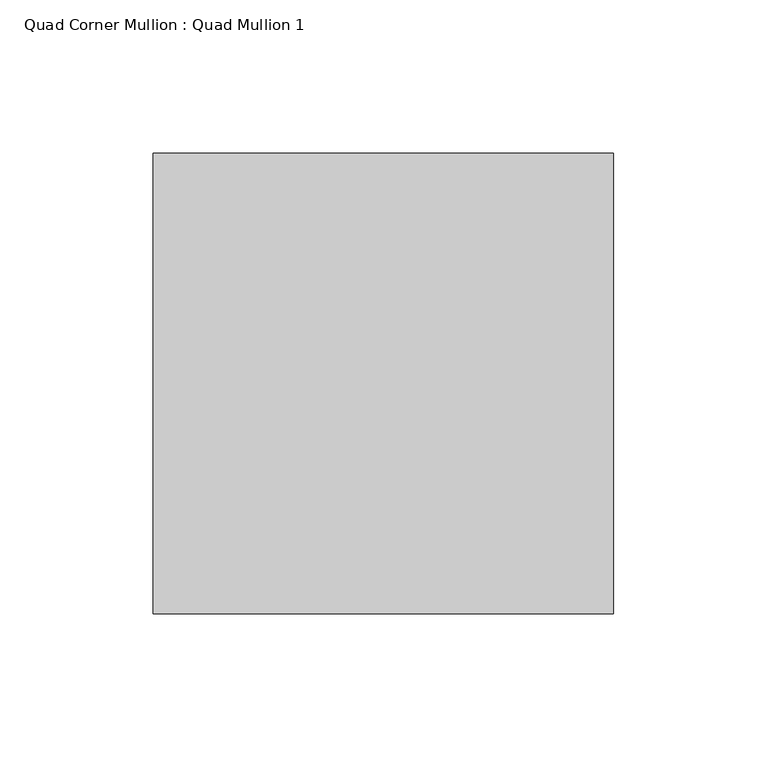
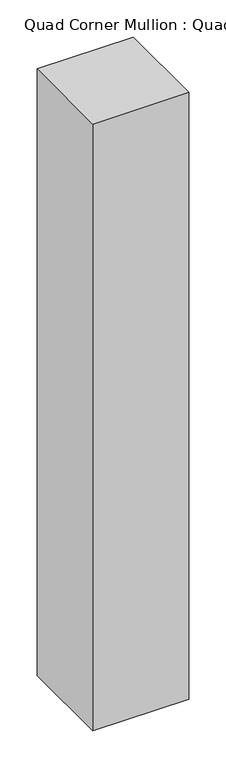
"""IFC4 building model written with IfcOpenShell, lengths in millimetres: member geometry, Quad Corner Mullion : Quad Mullion 1."""

import ifcopenshell
import ifcopenshell.guid

model = None  # the IFC model being written
_history = None  # IfcOwnerHistory: only IFC2X3 demands one
_inside = {}  # id of a spatial element -> (the spatial element, [elements in it])
_under = {}  # id of a project, library or spatial element -> (it, [spatial elements below it])
_declared = {}  # id of a project -> (the project, [libraries it declares])
_typed = {}  # id of a type object -> (the type object, [elements of that type])
_made_of = {}  # id of a material, layer set ... -> (it, [elements and type objects made of it])


def new_model(schema):
    """Start an empty IFC model of exactly this schema.

    Asked for "IFC4X3", IfcOpenShell would pick the latest addendum, in which some entities
    have other attributes; the version numbers below select the first issue.
    IFC2X3 requires an IfcOwnerHistory on every rooted entity: one is made here for all.
    """
    global model, _history
    if schema == "IFC4X3":
        model = ifcopenshell.file(schema_version=(4, 3, 0, 0))
    else:
        model = ifcopenshell.file(schema=schema)
    _inside.clear()
    _under.clear()
    _declared.clear()
    _typed.clear()
    _made_of.clear()
    _history = None
    if model.schema == "IFC2X3":
        org = make("IfcOrganization", Name="unknown")
        user = make(
            "IfcPersonAndOrganization",
            ThePerson=make("IfcPerson", FamilyName="unknown"),
            TheOrganization=org,
        )
        app = make(
            "IfcApplication",
            ApplicationDeveloper=org,
            Version="unknown",
            ApplicationFullName="unknown",
            ApplicationIdentifier="unknown",
        )
        _history = make(
            "IfcOwnerHistory",
            OwningUser=user,
            OwningApplication=app,
            ChangeAction="ADDED",
            CreationDate=0,
        )
    return model


def make(cls, **values):
    """One entity of the class cls with the attributes given. An attribute that is None is left unset."""
    return model.create_entity(
        cls, **{name: value for name, value in values.items() if value is not None}
    )


def rooted(cls, **values):
    """An entity with a GlobalId (a new one), such as an element, a storey or a relation."""
    return make(cls, GlobalId=ifcopenshell.guid.new(), OwnerHistory=_history, **values)


def si_unit(unit_type, name, prefix=None):
    """IfcSIUnit, for example si_unit("LENGTHUNIT", "METRE", prefix="MILLI")."""
    return make("IfcSIUnit", UnitType=unit_type, Prefix=prefix, Name=name)


def assignment(units):
    """IfcUnitAssignment: the units of a project."""
    return None if units is None else make("IfcUnitAssignment", Units=units)


def point(xyz):
    """IfcCartesianPoint."""
    return None if xyz is None else make("IfcCartesianPoint", Coordinates=xyz)


def direction(xyz):
    """IfcDirection."""
    return None if xyz is None else make("IfcDirection", DirectionRatios=xyz)


def frame(location, z_axis=None, x_axis=None):
    """IfcAxis2Placement3D, a coordinate frame: its origin and axes. An axis left out is left unset."""
    return make(
        "IfcAxis2Placement3D",
        Location=point(location),
        Axis=direction(z_axis),
        RefDirection=direction(x_axis),
    )


def origin():
    """The frame at (0, 0, 0) with its axes left unset."""
    return frame((0.0, 0.0, 0.0))


def place(relative_to, where):
    """IfcLocalPlacement: puts the frame where relative to a parent placement (None: the world)."""
    return make(
        "IfcLocalPlacement", PlacementRelTo=relative_to, RelativePlacement=where
    )


def context(
    kind, dimensions, precision=None, world=None, true_north=None, identifier=None
):
    """IfcGeometricRepresentationContext, for example the 3D "Model" context."""
    return make(
        "IfcGeometricRepresentationContext",
        ContextIdentifier=identifier,
        ContextType=kind,
        CoordinateSpaceDimension=dimensions,
        Precision=precision,
        WorldCoordinateSystem=world,
        TrueNorth=true_north,
    )


def project(units=None, contexts=None):
    """IfcProject with its units and contexts."""
    return rooted(
        "IfcProject",
        Name="project",
        RepresentationContexts=contexts,
        UnitsInContext=assignment(units),
    )


def spatial(cls, under=None, at=None, **own):
    """A site, building, storey or space (cls), placed at a placement, below another one or the project."""
    s = rooted(cls, ObjectPlacement=at, **own)
    if under is not None:
        _under.setdefault(under.id(), (under, []))[1].append(s)
    return s


def polyline(points):
    """IfcPolyline through the points."""
    return make("IfcPolyline", Points=[point(p) for p in points])


def outline(outer, holes=None, kind="AREA"):
    """IfcArbitraryClosedProfileDef: a profile drawn as a closed curve; with holes, ...WithVoids."""
    if holes is None:
        return make("IfcArbitraryClosedProfileDef", ProfileType=kind, OuterCurve=outer)
    return make(
        "IfcArbitraryProfileDefWithVoids",
        ProfileType=kind,
        OuterCurve=outer,
        InnerCurves=holes,
    )


def extrude(swept, where, along, depth):
    """IfcExtrudedAreaSolid: the profile swept, set in the frame where, extruded along a direction by depth."""
    return make(
        "IfcExtrudedAreaSolid",
        SweptArea=swept,
        Position=where,
        ExtrudedDirection=direction(along),
        Depth=depth,
    )


def shape(context_of_items, identifier, shape_type, items):
    """IfcShapeRepresentation: the items that make up one representation, for example the "Body"."""
    return make(
        "IfcShapeRepresentation",
        ContextOfItems=context_of_items,
        RepresentationIdentifier=identifier,
        RepresentationType=shape_type,
        Items=items,
    )


def source(mapping_origin, context_of_items, identifier, shape_type, items):
    """IfcRepresentationMap: a shape defined once, which mapped items show again and again."""
    return make(
        "IfcRepresentationMap",
        MappingOrigin=mapping_origin,
        MappedRepresentation=shape(context_of_items, identifier, shape_type, items),
    )


def transform(
    local_origin,
    x_axis=None,
    y_axis=None,
    z_axis=None,
    scale=None,
    scale2=None,
    scale3=None,
    uniform=True,
):
    """IfcCartesianTransformationOperator3D, or its non-uniform kind. x_axis, y_axis, z_axis: its Axis1, 2, 3."""
    if uniform:
        return make(
            "IfcCartesianTransformationOperator3D",
            Axis1=direction(x_axis),
            Axis2=direction(y_axis),
            LocalOrigin=point(local_origin),
            Scale=scale,
            Axis3=direction(z_axis),
        )
    return make(
        "IfcCartesianTransformationOperator3DnonUniform",
        Axis1=direction(x_axis),
        Axis2=direction(y_axis),
        LocalOrigin=point(local_origin),
        Scale=scale,
        Axis3=direction(z_axis),
        Scale2=scale2,
        Scale3=scale3,
    )


def mapped(mapping_source, mapping_target):
    """IfcMappedItem: shows the shape of a source again, moved by a transform."""
    return make(
        "IfcMappedItem", MappingSource=mapping_source, MappingTarget=mapping_target
    )


def made_of(thing, what):
    """Note that an element or type object is made of a material, layer set ...; save() writes the relation."""
    if what is not None:
        _made_of.setdefault(what.id(), (what, []))[1].append(thing)
    return thing


def element(
    cls,
    number,
    at=None,
    inside=None,
    cuts=None,
    type_object=None,
    material=None,
    context=None,
    identifier="Body",
    shape_type=None,
    held_by="IfcProductDefinitionShape",
    body=None,
    shapes=None,
    **own,
):
    """One element of the class cls, such as IfcWall. Its Tag is "e" and its number.

    at: its placement. inside: the storey or other place that contains it. cuts: it is an
    opening in that element (IfcRelVoidsElement). A single representation is given by context,
    identifier, shape_type and body (its items); several are given by shapes. held_by: the class
    of the entity that holds the representations. save() writes the other relations.
    """
    e = rooted(cls, Tag="e%d" % number, ObjectPlacement=at, **own)
    if body is not None:
        shapes = [shape(context, identifier, shape_type, body)]
    if shapes is not None:
        e.Representation = make(held_by, Representations=shapes)
    if inside is not None:
        _inside.setdefault(inside.id(), (inside, []))[1].append(e)
    if cuts is not None:
        rooted(
            "IfcRelVoidsElement", RelatingBuildingElement=cuts, RelatedOpeningElement=e
        )
    if type_object is not None:
        _typed.setdefault(type_object.id(), (type_object, []))[1].append(e)
    return made_of(e, material)


def aggregate(whole, parts):
    """IfcRelAggregates: a whole, such as a stair, and the parts it consists of."""
    return rooted("IfcRelAggregates", RelatingObject=whole, RelatedObjects=parts)


def save(model, path):
    """Write the relations noted so far, then the file.

    IfcRelAggregates (storeys below a building ...), IfcRelContainedInSpatialStructure (elements
    in a storey), IfcRelDefinesByType, IfcRelAssociatesMaterial and IfcRelDeclares: one each for
    every whole, place, type object, material and project.
    """
    for whole, parts in _under.values():
        aggregate(whole, parts)
    for where, things in _inside.values():
        rooted(
            "IfcRelContainedInSpatialStructure",
            RelatedElements=things,
            RelatingStructure=where,
        )
    for kind, things in _typed.values():
        rooted("IfcRelDefinesByType", RelatedObjects=things, RelatingType=kind)
    for what, things in _made_of.values():
        rooted("IfcRelAssociatesMaterial", RelatedObjects=things, RelatingMaterial=what)
    for by, libraries in _declared.values():
        rooted("IfcRelDeclares", RelatingContext=by, RelatedDefinitions=libraries)
    model.write(path)


def quad_corner_mullion_quad_mullion_1_893af7fe(model_context):
    return source(origin(), model_context, "Body", "SweptSolid", [
        extrude(outline(polyline([(75.0, 75.0), (75.0, -75.0), (-75.0, -75.0), (-75.0, 75.0), (75.0, 75.0)])), frame((0.0, 0.0, -1000.0), z_axis=(0.0, 0.0, 1.0), x_axis=(1.0, 0.0, 0.0)), (0.0, 0.0, 1.0), 1000.0),
    ])


if __name__ == "__main__":
    model = new_model("IFC4")
    model_context = context("Model", 3, world=origin())
    ifc_project = project(units=[si_unit("LENGTHUNIT", "METRE", prefix="MILLI")], contexts=[model_context])
    site = spatial("IfcSite", under=ifc_project)
    building = spatial("IfcBuilding", under=site)
    placement = place(None, origin())
    quad_corner_mullion_quad_mullion_1_shape = quad_corner_mullion_quad_mullion_1_893af7fe(model_context)
    element("IfcMember", 1, ObjectType="Quad Corner Mullion : Quad Mullion 1", at=placement, inside=building, context=model_context, shape_type="MappedRepresentation", body=[
        mapped(quad_corner_mullion_quad_mullion_1_shape, transform((0.0, 0.0, 0.0), x_axis=(1.0, 0.0, 0.0), y_axis=(0.0, 1.0, 0.0), z_axis=(0.0, 0.0, 1.0))),
    ])
    save(model, "model.ifc")
